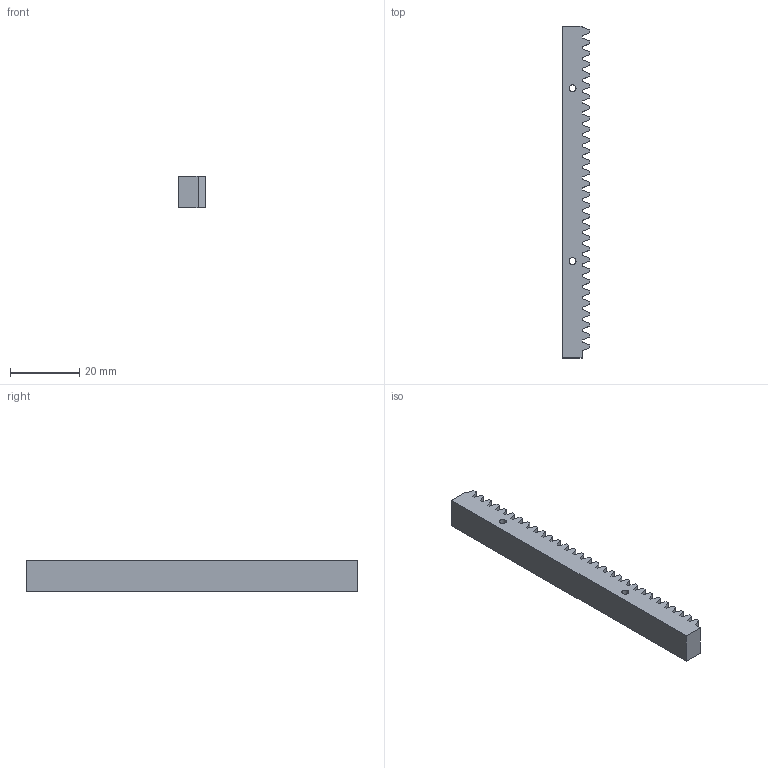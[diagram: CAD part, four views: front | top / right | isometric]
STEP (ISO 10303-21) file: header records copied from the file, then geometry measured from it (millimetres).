
FILE_DESCRIPTION(('Open CASCADE Model'),'2;1');
FILE_NAME('Open CASCADE Shape Model','2026-10-15T19:33:12',('Author'),( 'Open CASCADE'),'Open CASCADE STEP processor 7.9','Open CASCADE 7.9' ,'Unknown');
FILE_SCHEMA(('AUTOMOTIVE_DESIGN { 1 0 10303 214 1 1 1 1 }'));
Length unit declared in the file: millimetre
Products named in the file (1): Open CASCADE STEP translator 7.9 18
Bounding box: 8 x 96 x 9 mm (x, y, z)
Volume: 5921 mm3; surface area: 4111.1 mm2
Topology: 1 solids, 1 shells, 128 faces, 378 edges, 252 vertices
Faces by surface type: plane 126, cylinder 2
Full cylindrical faces by diameter (mm): 2 x2
Entity records: 9118 total; most frequent: CARTESIAN_POINT 1515, DIRECTION 1396, LINE 1126, VECTOR 1126, ORIENTED_EDGE 756, PCURVE 756, DEFINITIONAL_REPRESENTATION 756, EDGE_CURVE 378
